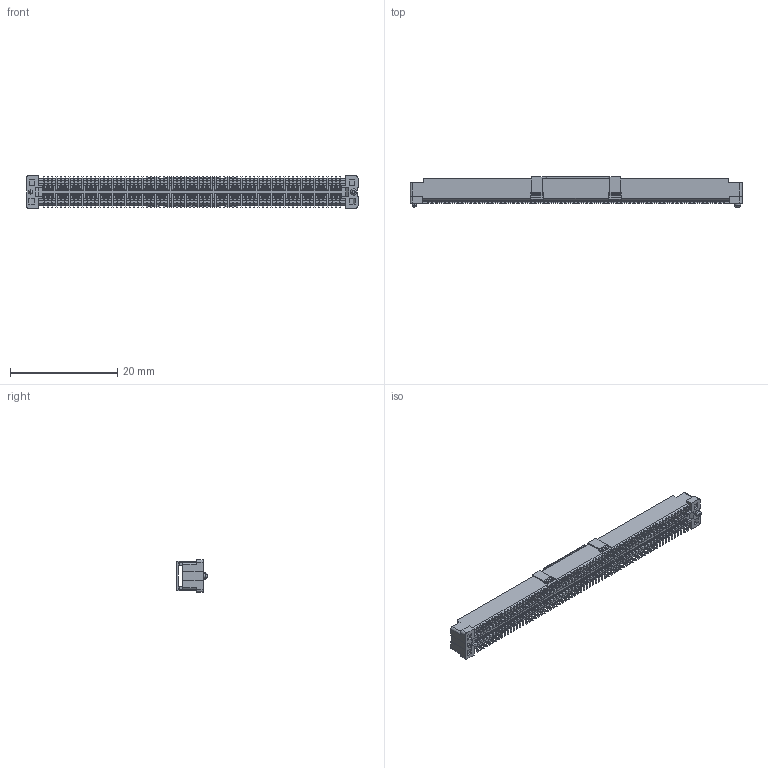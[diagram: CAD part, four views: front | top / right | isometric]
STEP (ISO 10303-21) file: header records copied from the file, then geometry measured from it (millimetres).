
FILE_DESCRIPTION (( 'STEP AP203' ), '1' );
FILE_NAME ('HC-PBB08-1-140-M-H4.7-XX-R-P-06 (BTB0.8 单槽 公座 立贴 带柱 编带+盖)-HCTL.STEP', '2025-12-22T02:53:30', ( '' ), ( '' ), 'SwSTEP 2.0', 'SolidWorks 2025', '' );
FILE_SCHEMA (( 'CONFIG_CONTROL_DESIGN' ));
Products named in the file (1): HC-PBB08-1-140-M-H4.7-XX-R-P-06 (BTB0.8 单槽 公座 立贴 带柱 编带+盖)-HCTL
Bounding box: 61.8 x 5.6 x 6 mm (x, y, z)
Volume: 722.9 mm3; surface area: 2956.7 mm2
Topology: 2 solids, 2 shells, 7210 faces, 21764 edges, 14112 vertices
Faces by surface type: plane 6030, cylinder 1162, cone 8, bspline 6, torus 4
Entity records: 241383 total; most frequent: CARTESIAN_POINT 44645, ORIENTED_EDGE 43528, DIRECTION 37942, EDGE_CURVE 21764, LINE 19412, VECTOR 19412, VERTEX_POINT 14112, AXIS2_PLACEMENT_3D 9265
